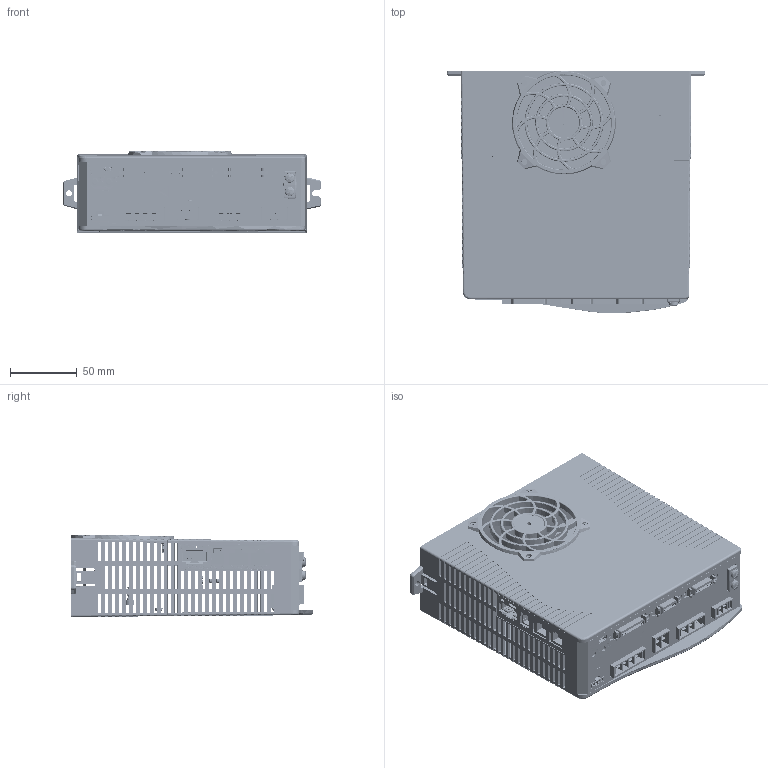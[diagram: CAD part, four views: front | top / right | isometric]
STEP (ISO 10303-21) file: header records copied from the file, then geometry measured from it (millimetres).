
FILE_DESCRIPTION((''),'2;1');
FILE_NAME('120_240_VAC_CDHD-008_CDHD-010_C','2024-02-02T',('wusong22'),(''),'CREO PARAMETRIC BY PTC INC, 2016260','CREO PARAMETRIC BY PTC INC, 2016260','');
FILE_SCHEMA(('AUTOMOTIVE_DESIGN { 1 0 10303 214 1 1 1 1 }'));
Products named in the file (1): 120_240_VAC_CDHD-008_CDHD-010_C
Bounding box: 194.32 x 181.92 x 61.78 mm (x, y, z)
Volume: 34514.8 mm3; surface area: 298989.2 mm2
Topology: 61 solids, 332 shells, 15005 faces, 42614 edges, 28053 vertices
Faces by surface type: plane 10278, cylinder 2970, cone 1084, bspline 479, torus 152, sphere 34, extrusion 7, revolution 1
Entity records: 663264 total; most frequent: CARTESIAN_POINT 140561, ORIENTED_EDGE 83541, DIRECTION 72665, EDGE_CURVE 42558, PRESENTATION_STYLE_ASSIGNMENT 34946, STYLED_ITEM 32374, VECTOR 31736, LINE 31729
